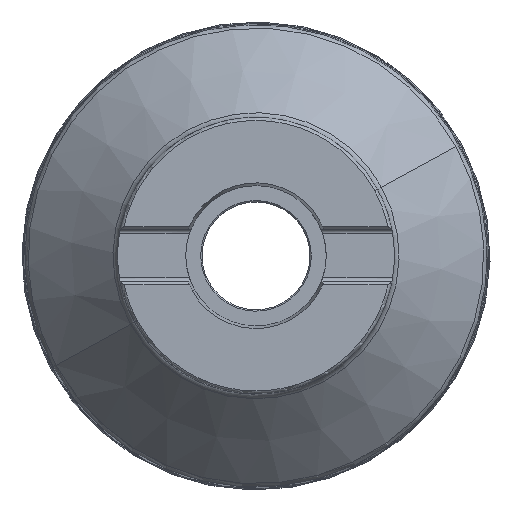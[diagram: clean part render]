
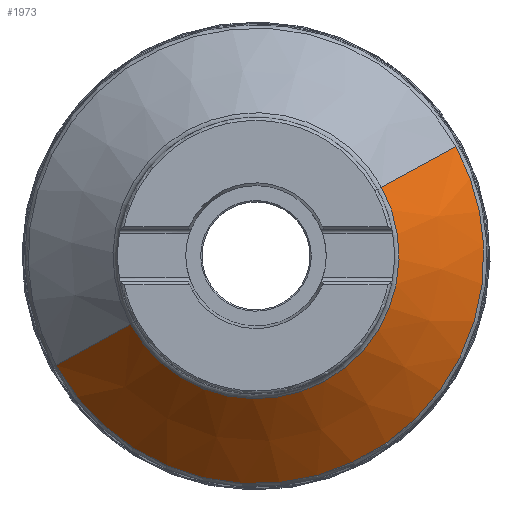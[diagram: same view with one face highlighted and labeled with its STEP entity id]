
A CAD part, top view. The second image highlights one B-rep face of the part: STEP entity #1973.
In plain terms, the highlighted conical face has half-angle 44.199 degrees and reference radius 50 mm.
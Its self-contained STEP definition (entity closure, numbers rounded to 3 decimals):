
#1855=AXIS2_PLACEMENT_3D('Circle Axis2P3D',#1853,#1854,$) ;
#1940=AXIS2_PLACEMENT_3D('Cone Axis2P3D',#1937,#1938,#1939) ;
#1956=AXIS2_PLACEMENT_3D('Circle Axis2P3D',#1954,#1955,$) ;
#1963=AXIS2_PLACEMENT_3D('Circle Axis2P3D',#1961,#1962,$) ;
#734=CARTESIAN_POINT('Vertex',(-72.257,-39.474,-49.253)) ;
#1850=CARTESIAN_POINT('Vertex',(-45.37,-24.786,-17.747)) ;
#1853=CARTESIAN_POINT('Axis2P3D Location',(0.,0.,-17.747)) ;
#1857=CARTESIAN_POINT('Vertex',(45.37,24.786,-17.747)) ;
#1937=CARTESIAN_POINT('Axis2P3D Location',(0.,0.,-16.)) ;
#1942=CARTESIAN_POINT('Line Origine',(58.813,32.13,-33.5)) ;
#1946=CARTESIAN_POINT('Vertex',(72.257,39.474,-49.253)) ;
#1949=CARTESIAN_POINT('Line Origine',(-58.813,-32.13,-33.5)) ;
#1954=CARTESIAN_POINT('Axis2P3D Location',(0.,0.,-49.253)) ;
#1958=CARTESIAN_POINT('Vertex',(82.258,3.594,-49.253)) ;
#1961=CARTESIAN_POINT('Axis2P3D Location',(0.,0.,-49.253)) ;
#1854=DIRECTION('Axis2P3D Direction',(0.,-0.,1.)) ;
#1938=DIRECTION('Axis2P3D Direction',(-0.,-0.,-1.)) ;
#1939=DIRECTION('Axis2P3D XDirection',(-0.878,-0.479,0.)) ;
#1943=DIRECTION('Vector Direction',(0.612,0.334,-0.717)) ;
#1950=DIRECTION('Vector Direction',(-0.612,-0.334,-0.717)) ;
#1955=DIRECTION('Axis2P3D Direction',(0.,0.,-1.)) ;
#1962=DIRECTION('Axis2P3D Direction',(0.,0.,-1.)) ;
#1944=VECTOR('Line Direction',#1943,1.) ;
#1951=VECTOR('Line Direction',#1950,1.) ;
#1967=ORIENTED_EDGE('',*,*,#1948,.T.) ;
#1968=ORIENTED_EDGE('',*,*,#1859,.T.) ;
#1969=ORIENTED_EDGE('',*,*,#1953,.F.) ;
#1970=ORIENTED_EDGE('',*,*,#1960,.T.) ;
#1971=ORIENTED_EDGE('',*,*,#1965,.T.) ;
#1973=ADVANCED_FACE('NOCUT',(#1972),#1941,.T.) ;
#1856=CIRCLE('generated circle',#1855,51.698) ;
#1957=CIRCLE('generated circle',#1956,82.336) ;
#1964=CIRCLE('generated circle',#1963,82.336) ;
#1941=CONICAL_SURFACE('Cone',#1940,50.,0.771) ;
#1859=EDGE_CURVE('',#1858,#1851,#1856,.F.) ;
#1948=EDGE_CURVE('',#1947,#1858,#1945,.F.) ;
#1953=EDGE_CURVE('',#735,#1851,#1952,.F.) ;
#1960=EDGE_CURVE('',#735,#1959,#1957,.F.) ;
#1965=EDGE_CURVE('',#1959,#1947,#1964,.F.) ;
#1966=EDGE_LOOP('',(#1967,#1968,#1969,#1970,#1971)) ;
#1972=FACE_OUTER_BOUND('',#1966,.T.) ;
#1945=LINE('Line',#1942,#1944) ;
#1952=LINE('Line',#1949,#1951) ;
#735=VERTEX_POINT('',#734) ;
#1851=VERTEX_POINT('',#1850) ;
#1858=VERTEX_POINT('',#1857) ;
#1947=VERTEX_POINT('',#1946) ;
#1959=VERTEX_POINT('',#1958) ;
